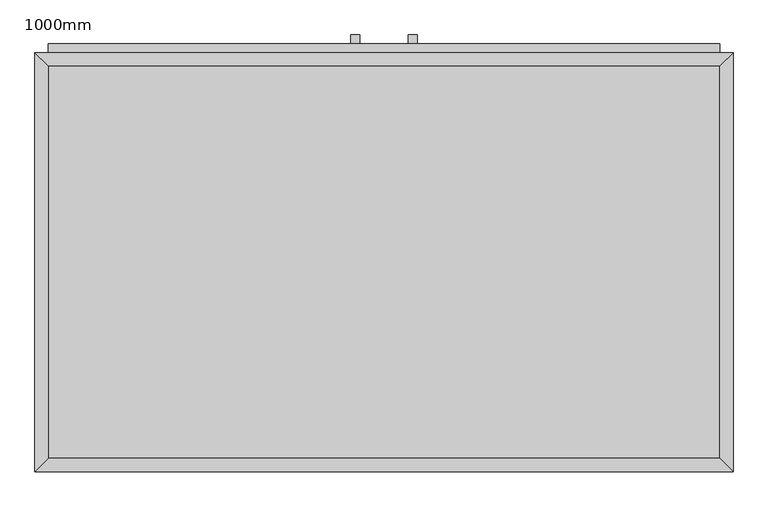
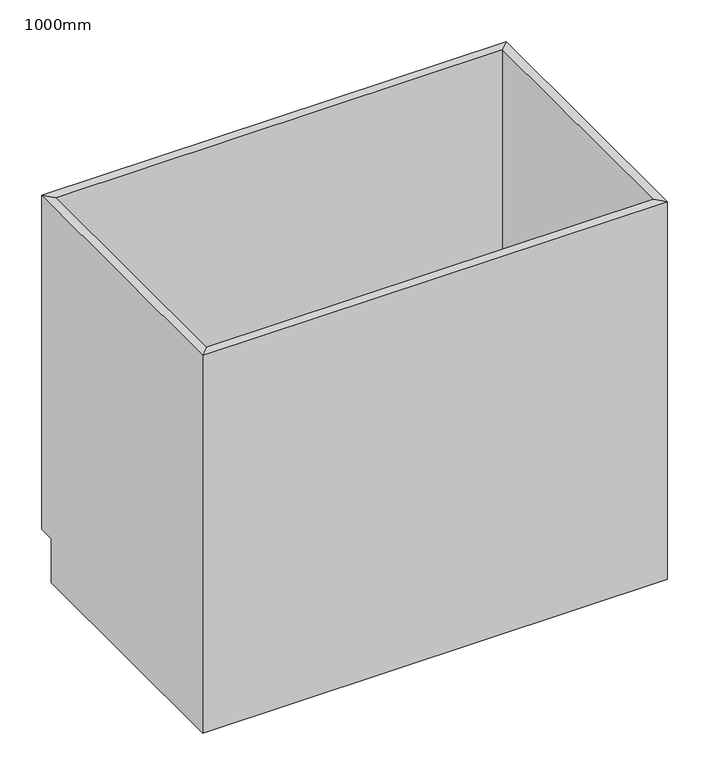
"""IFC4 building model written with IfcOpenShell, lengths in millimetres: furniture geometry, 底柜 - 双门洗涤台 : 1000mm."""

import ifcopenshell
import ifcopenshell.guid

model = None  # the IFC model being written
_history = None  # IfcOwnerHistory: only IFC2X3 demands one
_inside = {}  # id of a spatial element -> (the spatial element, [elements in it])
_under = {}  # id of a project, library or spatial element -> (it, [spatial elements below it])
_declared = {}  # id of a project -> (the project, [libraries it declares])
_typed = {}  # id of a type object -> (the type object, [elements of that type])
_made_of = {}  # id of a material, layer set ... -> (it, [elements and type objects made of it])


def new_model(schema):
    """Start an empty IFC model of exactly this schema.

    Asked for "IFC4X3", IfcOpenShell would pick the latest addendum, in which some entities
    have other attributes; the version numbers below select the first issue.
    IFC2X3 requires an IfcOwnerHistory on every rooted entity: one is made here for all.
    """
    global model, _history
    if schema == "IFC4X3":
        model = ifcopenshell.file(schema_version=(4, 3, 0, 0))
    else:
        model = ifcopenshell.file(schema=schema)
    _inside.clear()
    _under.clear()
    _declared.clear()
    _typed.clear()
    _made_of.clear()
    _history = None
    if model.schema == "IFC2X3":
        org = make("IfcOrganization", Name="unknown")
        user = make(
            "IfcPersonAndOrganization",
            ThePerson=make("IfcPerson", FamilyName="unknown"),
            TheOrganization=org,
        )
        app = make(
            "IfcApplication",
            ApplicationDeveloper=org,
            Version="unknown",
            ApplicationFullName="unknown",
            ApplicationIdentifier="unknown",
        )
        _history = make(
            "IfcOwnerHistory",
            OwningUser=user,
            OwningApplication=app,
            ChangeAction="ADDED",
            CreationDate=0,
        )
    return model


def make(cls, **values):
    """One entity of the class cls with the attributes given. An attribute that is None is left unset."""
    return model.create_entity(
        cls, **{name: value for name, value in values.items() if value is not None}
    )


def rooted(cls, **values):
    """An entity with a GlobalId (a new one), such as an element, a storey or a relation."""
    return make(cls, GlobalId=ifcopenshell.guid.new(), OwnerHistory=_history, **values)


def si_unit(unit_type, name, prefix=None):
    """IfcSIUnit, for example si_unit("LENGTHUNIT", "METRE", prefix="MILLI")."""
    return make("IfcSIUnit", UnitType=unit_type, Prefix=prefix, Name=name)


def assignment(units):
    """IfcUnitAssignment: the units of a project."""
    return None if units is None else make("IfcUnitAssignment", Units=units)


def point(xyz):
    """IfcCartesianPoint."""
    return None if xyz is None else make("IfcCartesianPoint", Coordinates=xyz)


def direction(xyz):
    """IfcDirection."""
    return None if xyz is None else make("IfcDirection", DirectionRatios=xyz)


def frame(location, z_axis=None, x_axis=None):
    """IfcAxis2Placement3D, a coordinate frame: its origin and axes. An axis left out is left unset."""
    return make(
        "IfcAxis2Placement3D",
        Location=point(location),
        Axis=direction(z_axis),
        RefDirection=direction(x_axis),
    )


def origin():
    """The frame at (0, 0, 0) with its axes left unset."""
    return frame((0.0, 0.0, 0.0))


def place(relative_to, where):
    """IfcLocalPlacement: puts the frame where relative to a parent placement (None: the world)."""
    return make(
        "IfcLocalPlacement", PlacementRelTo=relative_to, RelativePlacement=where
    )


def context(
    kind, dimensions, precision=None, world=None, true_north=None, identifier=None
):
    """IfcGeometricRepresentationContext, for example the 3D "Model" context."""
    return make(
        "IfcGeometricRepresentationContext",
        ContextIdentifier=identifier,
        ContextType=kind,
        CoordinateSpaceDimension=dimensions,
        Precision=precision,
        WorldCoordinateSystem=world,
        TrueNorth=true_north,
    )


def project(units=None, contexts=None):
    """IfcProject with its units and contexts."""
    return rooted(
        "IfcProject",
        Name="project",
        RepresentationContexts=contexts,
        UnitsInContext=assignment(units),
    )


def spatial(cls, under=None, at=None, **own):
    """A site, building, storey or space (cls), placed at a placement, below another one or the project."""
    s = rooted(cls, ObjectPlacement=at, **own)
    if under is not None:
        _under.setdefault(under.id(), (under, []))[1].append(s)
    return s


def polyline(points):
    """IfcPolyline through the points."""
    return make("IfcPolyline", Points=[point(p) for p in points])


def outline(outer, holes=None, kind="AREA"):
    """IfcArbitraryClosedProfileDef: a profile drawn as a closed curve; with holes, ...WithVoids."""
    if holes is None:
        return make("IfcArbitraryClosedProfileDef", ProfileType=kind, OuterCurve=outer)
    return make(
        "IfcArbitraryProfileDefWithVoids",
        ProfileType=kind,
        OuterCurve=outer,
        InnerCurves=holes,
    )


def extrude(swept, where, along, depth):
    """IfcExtrudedAreaSolid: the profile swept, set in the frame where, extruded along a direction by depth."""
    return make(
        "IfcExtrudedAreaSolid",
        SweptArea=swept,
        Position=where,
        ExtrudedDirection=direction(along),
        Depth=depth,
    )


def faces_of(points, faces, orient=None, outer=None):
    """IfcFace entities. A face is a list of loops; a loop is a list of indices into points, from 0.

    orient and outer hold one flag for each loop. By default every Orientation is true, the
    first loop of a face is its IfcFaceOuterBound and the others are IfcFaceBound.
    """
    made = []
    for i, loops in enumerate(faces):
        bounds = []
        for j, loop in enumerate(loops):
            is_outer = j == 0 if outer is None else outer[i][j]
            bounds.append(
                make(
                    "IfcFaceOuterBound" if is_outer else "IfcFaceBound",
                    Bound=make("IfcPolyLoop", Polygon=[points[k] for k in loop]),
                    Orientation=True if orient is None else orient[i][j],
                )
            )
        made.append(make("IfcFace", Bounds=bounds))
    return made


def faceted_brep(points, faces, orient=None, outer=None, voids=None):
    """IfcFacetedBrep: a solid bounded by flat faces; with voids (closed shells), ...WithVoids."""
    shared = [point(p) for p in points]
    hull = make("IfcClosedShell", CfsFaces=faces_of(shared, faces, orient, outer))
    if voids is None:
        return make("IfcFacetedBrep", Outer=hull)
    return make(
        "IfcFacetedBrepWithVoids",
        Outer=hull,
        Voids=[
            make(cls, CfsFaces=faces_of(shared, fs, o, b)) for cls, fs, o, b in voids
        ],
    )


def shape(context_of_items, identifier, shape_type, items):
    """IfcShapeRepresentation: the items that make up one representation, for example the "Body"."""
    return make(
        "IfcShapeRepresentation",
        ContextOfItems=context_of_items,
        RepresentationIdentifier=identifier,
        RepresentationType=shape_type,
        Items=items,
    )


def source(mapping_origin, context_of_items, identifier, shape_type, items):
    """IfcRepresentationMap: a shape defined once, which mapped items show again and again."""
    return make(
        "IfcRepresentationMap",
        MappingOrigin=mapping_origin,
        MappedRepresentation=shape(context_of_items, identifier, shape_type, items),
    )


def transform(
    local_origin,
    x_axis=None,
    y_axis=None,
    z_axis=None,
    scale=None,
    scale2=None,
    scale3=None,
    uniform=True,
):
    """IfcCartesianTransformationOperator3D, or its non-uniform kind. x_axis, y_axis, z_axis: its Axis1, 2, 3."""
    if uniform:
        return make(
            "IfcCartesianTransformationOperator3D",
            Axis1=direction(x_axis),
            Axis2=direction(y_axis),
            LocalOrigin=point(local_origin),
            Scale=scale,
            Axis3=direction(z_axis),
        )
    return make(
        "IfcCartesianTransformationOperator3DnonUniform",
        Axis1=direction(x_axis),
        Axis2=direction(y_axis),
        LocalOrigin=point(local_origin),
        Scale=scale,
        Axis3=direction(z_axis),
        Scale2=scale2,
        Scale3=scale3,
    )


def mapped(mapping_source, mapping_target):
    """IfcMappedItem: shows the shape of a source again, moved by a transform."""
    return make(
        "IfcMappedItem", MappingSource=mapping_source, MappingTarget=mapping_target
    )


def made_of(thing, what):
    """Note that an element or type object is made of a material, layer set ...; save() writes the relation."""
    if what is not None:
        _made_of.setdefault(what.id(), (what, []))[1].append(thing)
    return thing


def element(
    cls,
    number,
    at=None,
    inside=None,
    cuts=None,
    type_object=None,
    material=None,
    context=None,
    identifier="Body",
    shape_type=None,
    held_by="IfcProductDefinitionShape",
    body=None,
    shapes=None,
    **own,
):
    """One element of the class cls, such as IfcWall. Its Tag is "e" and its number.

    at: its placement. inside: the storey or other place that contains it. cuts: it is an
    opening in that element (IfcRelVoidsElement). A single representation is given by context,
    identifier, shape_type and body (its items); several are given by shapes. held_by: the class
    of the entity that holds the representations. save() writes the other relations.
    """
    e = rooted(cls, Tag="e%d" % number, ObjectPlacement=at, **own)
    if body is not None:
        shapes = [shape(context, identifier, shape_type, body)]
    if shapes is not None:
        e.Representation = make(held_by, Representations=shapes)
    if inside is not None:
        _inside.setdefault(inside.id(), (inside, []))[1].append(e)
    if cuts is not None:
        rooted(
            "IfcRelVoidsElement", RelatingBuildingElement=cuts, RelatedOpeningElement=e
        )
    if type_object is not None:
        _typed.setdefault(type_object.id(), (type_object, []))[1].append(e)
    return made_of(e, material)


def aggregate(whole, parts):
    """IfcRelAggregates: a whole, such as a stair, and the parts it consists of."""
    return rooted("IfcRelAggregates", RelatingObject=whole, RelatedObjects=parts)


def save(model, path):
    """Write the relations noted so far, then the file.

    IfcRelAggregates (storeys below a building ...), IfcRelContainedInSpatialStructure (elements
    in a storey), IfcRelDefinesByType, IfcRelAssociatesMaterial and IfcRelDeclares: one each for
    every whole, place, type object, material and project.
    """
    for whole, parts in _under.values():
        aggregate(whole, parts)
    for where, things in _inside.values():
        rooted(
            "IfcRelContainedInSpatialStructure",
            RelatedElements=things,
            RelatingStructure=where,
        )
    for kind, things in _typed.values():
        rooted("IfcRelDefinesByType", RelatedObjects=things, RelatingType=kind)
    for what, things in _made_of.values():
        rooted("IfcRelAssociatesMaterial", RelatedObjects=things, RelatingMaterial=what)
    for by, libraries in _declared.values():
        rooted("IfcRelDeclares", RelatingContext=by, RelatedDefinitions=libraries)
    model.write(path)


def furniture_1000mm_db46624e(model_context):
    return source(origin(), model_context, "Body", "SolidModel", [
        faceted_brep([(499.6877049, 580.95, 860.0), (-462.2122951, 580.95, 860.0), (-462.2122951, 580.95, 100.0), (499.6877049, 580.95, 100.0), (518.7377049, 600.0, 860.0), (-481.2622951, 600.0, 860.0), (518.7377049, 600.0, 100.0), (-481.2622951, 600.0, 100.0), (-462.2122951, 19.05, 860.0), (-462.2122951, 19.05, 100.0), (-462.2122951, 565.0, 100.0), (-481.2622951, 0.0, 860.0), (-481.2622951, 565.0, 100.0), (-481.2622951, 565.0, 0.0), (-481.2622951, 0.0, 0.0), (499.6877049, 19.05, 860.0), (499.6877049, 19.05, 100.0), (518.7377049, 0.0, 860.0), (518.7377049, 0.0, 0.0), (499.6877049, 565.0, 100.0), (518.7377049, 565.0, 0.0), (518.7377049, 565.0, 100.0)], [[[0, 1, 2, 3]], [[0, 4, 5, 1]], [[4, 6, 7, 5]], [[2, 7, 6, 3]], [[1, 8, 9, 10, 2]], [[5, 11, 8, 1]], [[7, 12, 13, 14, 11, 5]], [[2, 10, 12, 7]], [[8, 15, 16, 9]], [[11, 17, 15, 8]], [[14, 18, 17, 11]], [[3, 19, 16, 15, 0]], [[0, 15, 17, 4]], [[4, 17, 18, 20, 21, 6]], [[6, 21, 19, 3]], [[10, 9, 16, 19]], [[18, 14, 13, 20]], [[13, 12, 10, 19, 21, 20]]]),
        extrude(outline(polyline([(-16.1872951, 625.4), (-16.1872951, 612.7), (-28.8872951, 612.7), (-28.8872951, 625.4), (-16.1872951, 625.4)])), frame((0.0, 0.0, 557.469895), z_axis=(0.0, 0.0, 1.0), x_axis=(1.0, 0.0, 0.0)), (0.0, 0.0, 1.0), 124.730105),
        extrude(outline(polyline([(66.3627049, 625.4), (66.3627049, 612.7), (53.6627049, 612.7), (53.6627049, 625.4), (66.3627049, 625.4)])), frame((0.0, 0.0, 557.469895), z_axis=(0.0, 0.0, 1.0), x_axis=(1.0, 0.0, 0.0)), (0.0, 0.0, 1.0), 124.730105),
        extrude(outline(polyline([(9.2127049, 612.7), (9.2127049, 600.0), (-462.2122951, 600.0), (-462.2122951, 612.7), (9.2127049, 612.7)])), frame((0.0, 0.0, 119.05), z_axis=(0.0, 0.0, 1.0), x_axis=(1.0, 0.0, 0.0)), (0.0, 0.0, 1.0), 601.25),
        extrude(outline(polyline([(499.6877049, 612.7), (499.6877049, 600.0), (28.2627049, 600.0), (28.2627049, 612.7), (499.6877049, 612.7)])), frame((0.0, 0.0, 119.05), z_axis=(0.0, 0.0, 1.0), x_axis=(1.0, 0.0, 0.0)), (0.0, 0.0, 1.0), 601.25),
        extrude(outline(polyline([(499.6877049, 612.7), (499.6877049, 600.0), (-462.2122951, 600.0), (-462.2122951, 612.7), (499.6877049, 612.7)])), frame((0.0, 0.0, 739.35), z_axis=(0.0, 0.0, 1.0), x_axis=(1.0, 0.0, 0.0)), (0.0, 0.0, 1.0), 101.6),
        extrude(outline(polyline([(499.6877049, 19.05), (-462.2122951, 19.05), (-462.2122951, 580.95), (499.6877049, 580.95), (499.6877049, 19.05)])), frame((0.0, 0.0, 100.0), z_axis=(0.0, 0.0, 1.0), x_axis=(1.0, 0.0, 0.0)), (0.0, 0.0, 1.0), 19.05),
    ])


if __name__ == "__main__":
    model = new_model("IFC4")
    model_context = context("Model", 3, world=origin())
    ifc_project = project(units=[si_unit("LENGTHUNIT", "METRE", prefix="MILLI")], contexts=[model_context])
    site = spatial("IfcSite", under=ifc_project)
    building = spatial("IfcBuilding", under=site)
    placement = place(None, origin())
    furniture_1000mm_shape = furniture_1000mm_db46624e(model_context)
    element("IfcFurniture", 1, ObjectType="底柜 - 双门洗涤台 : 1000mm", at=placement, inside=building, context=model_context, shape_type="MappedRepresentation", body=[
        mapped(furniture_1000mm_shape, transform((0.0, 0.0, 0.0), x_axis=(1.0, 0.0, 0.0), y_axis=(0.0, 1.0, 0.0), z_axis=(0.0, 0.0, 1.0))),
    ])
    save(model, "model.ifc")
